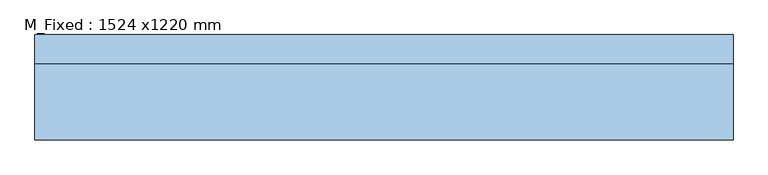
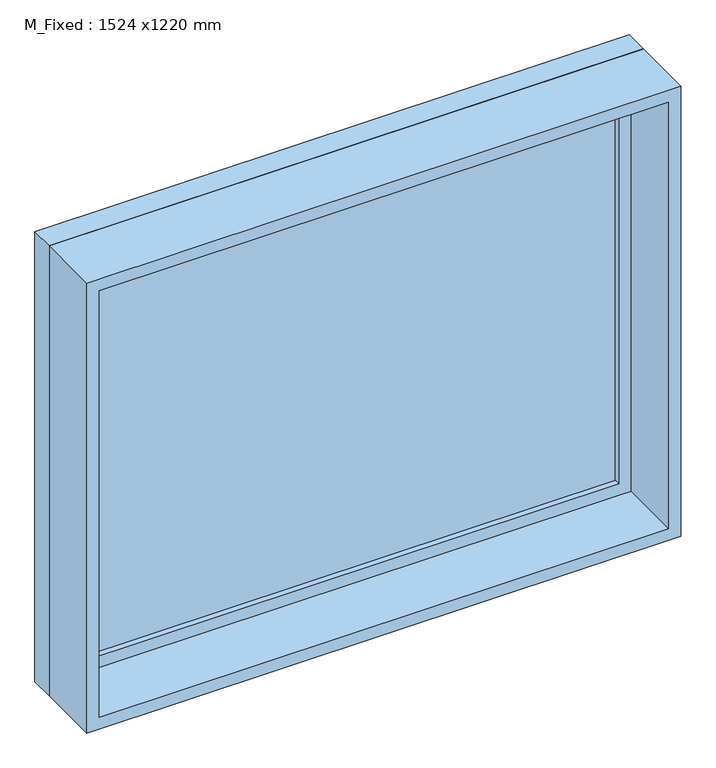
"""IFC4 building model written with IfcOpenShell, lengths in millimetres: window geometry, M_Fixed : 1524 x1220 mm."""

from ifc_helpers import new_model, si_unit, frame, origin, place, context, project, spatial, polyline, outline, extrude, source, transform, mapped, element, save


def m_fixed_1524_x1220_mm_ccb4a2ee(model_context):
    return source(origin(), model_context, "Body", "SweptSolid", [
        extrude(outline(polyline([(-699.0, 93.0), (699.0, 93.0), (699.0, 81.0), (-699.0, 81.0), (-699.0, 93.0)])), frame((0.0, 0.0, 978.0), z_axis=(0.0, 0.0, 1.0), x_axis=(1.0, 0.0, 0.0)), (0.0, 0.0, 1.0), 1094.0),
        extrude(outline(polyline([(2116.0, -743.0), (934.0, -743.0), (934.0, 743.0), (2116.0, 743.0), (2116.0, -743.0)]), holes=[polyline([(2072.0, -699.0), (2072.0, 699.0), (978.0, 699.0), (978.0, -699.0), (2072.0, -699.0)])]), frame((0.0, 65.0, 0.0), z_axis=(0.0, 1.0, 0.0), x_axis=(0.0, 0.0, 1.0)), (0.0, 0.0, 1.0), 44.0),
        extrude(outline(polyline([(2135.0, -762.0), (915.0, -762.0), (915.0, 762.0), (2135.0, 762.0), (2135.0, -762.0)]), holes=[polyline([(2116.0, -743.0), (2116.0, 743.0), (934.0, 743.0), (934.0, -743.0), (2116.0, -743.0)])]), frame((0.0, 65.0, 0.0), z_axis=(0.0, 1.0, 0.0), x_axis=(0.0, 0.0, 1.0)), (0.0, 0.0, 1.0), 63.0),
        extrude(outline(polyline([(2135.0, -762.0), (915.0, -762.0), (915.0, 762.0), (2135.0, 762.0), (2135.0, -762.0)]), holes=[polyline([(2103.0, -730.0), (2103.0, 730.0), (947.0, 730.0), (947.0, -730.0), (2103.0, -730.0)])]), frame((0.0, -102.0, 0.0), z_axis=(0.0, 1.0, 0.0), x_axis=(0.0, 0.0, 1.0)), (0.0, 0.0, 1.0), 167.0),
    ])


if __name__ == "__main__":
    model = new_model("IFC4")
    model_context = context("Model", 3, world=origin())
    ifc_project = project(units=[si_unit("LENGTHUNIT", "METRE", prefix="MILLI")], contexts=[model_context])
    site = spatial("IfcSite", under=ifc_project)
    building = spatial("IfcBuilding", under=site)
    placement = place(None, origin())
    m_fixed_1524_x1220_mm_shape = m_fixed_1524_x1220_mm_ccb4a2ee(model_context)
    element("IfcWindow", 1, ObjectType="M_Fixed : 1524 x1220 mm", at=placement, inside=building, context=model_context, shape_type="MappedRepresentation", body=[
        mapped(m_fixed_1524_x1220_mm_shape, transform((0.0, 0.0, 0.0), x_axis=(1.0, 0.0, 0.0), y_axis=(0.0, 1.0, 0.0), z_axis=(0.0, 0.0, 1.0))),
    ])
    save(model, "model.ifc")
